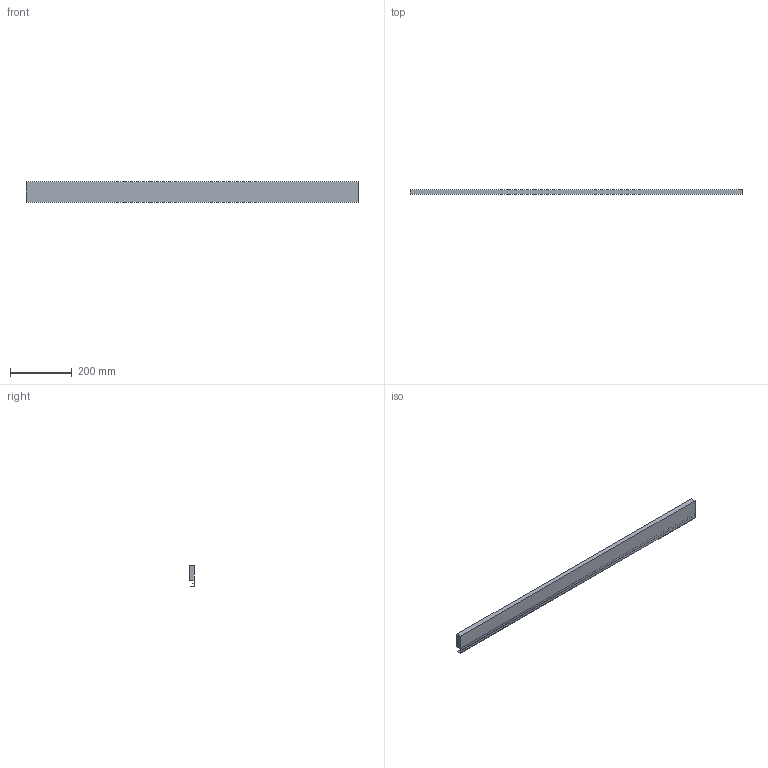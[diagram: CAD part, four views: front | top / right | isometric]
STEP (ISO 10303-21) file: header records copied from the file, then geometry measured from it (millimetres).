
FILE_DESCRIPTION (( 'STEP AP214' ), '1' );
FILE_NAME ('Innenschub-Blendenprofil_KAB1200_S19.step', '2010-09-23T12:27:14', ( 'grass' ), ( '' ), 'SwSTEP 2.0', 'SolidWorks 2010', '' );
FILE_SCHEMA (( 'AUTOMOTIVE_DESIGN' ));
Length unit declared in the file: millimetre
Products named in the file (1): Innenschub-Blendenprofil_KAB1200_S19
Bounding box: 1071 x 15.9 x 67.6 mm (x, y, z)
Volume: 888057.8 mm3; surface area: 211823.2 mm2
Topology: 1 solids, 1 shells, 17 faces, 42 edges, 28 vertices
Faces by surface type: plane 15, cylinder 2
Entity records: 534 total; most frequent: CARTESIAN_POINT 88, ORIENTED_EDGE 84, DIRECTION 82, EDGE_CURVE 42, LINE 38, VECTOR 38, VERTEX_POINT 28, AXIS2_PLACEMENT_3D 22
